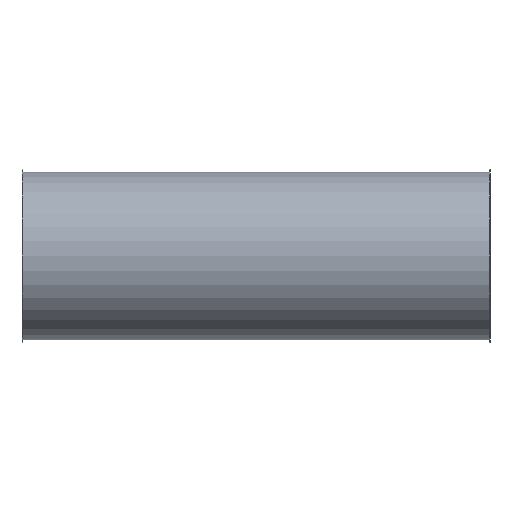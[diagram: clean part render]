
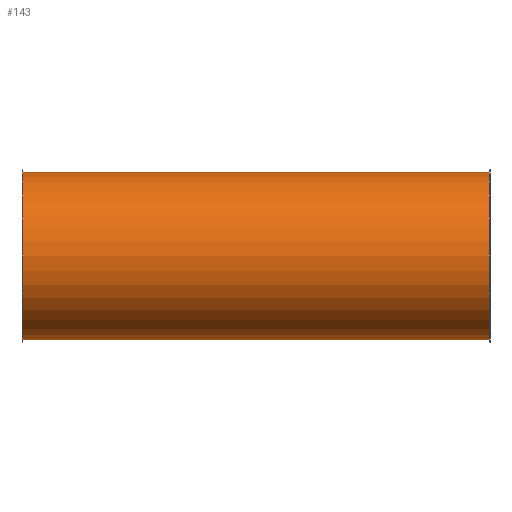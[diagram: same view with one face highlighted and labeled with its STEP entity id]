
A CAD part, front view. The second image highlights one B-rep face of the part: STEP entity #143.
In plain terms, the highlighted cylindrical face has radius 176.5 mm (diameter 353 mm), a full revolution.
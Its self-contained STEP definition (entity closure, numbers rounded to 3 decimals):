
#112=CARTESIAN_POINT('',(952.119,2.817,0.0));
#113=VERTEX_POINT('',#112);
#114=CARTESIAN_POINT('',(952.119,179.317,0.0));
#115=DIRECTION('',(-1.0,0.0,0.0));
#116=DIRECTION('',(0.0,-1.0,0.0));
#117=AXIS2_PLACEMENT_3D('',#114,#115,#116);
#118=CIRCLE('',#117,176.5);
#119=EDGE_CURVE('',#113,#113,#118,.T.);
#124=CARTESIAN_POINT('',(461.119,179.317,0.0));
#125=DIRECTION('',(-1.0,0.,0.0));
#126=DIRECTION('',(0.0,-1.0,0.0));
#127=AXIS2_PLACEMENT_3D('',#124,#125,#126);
#128=CYLINDRICAL_SURFACE('',#127,176.5);
#129=CARTESIAN_POINT('',(-29.881,2.817,0.0));
#130=VERTEX_POINT('',#129);
#131=CARTESIAN_POINT('',(-29.881,179.317,0.0));
#132=DIRECTION('',(-1.0,0.0,0.0));
#133=DIRECTION('',(0.0,-1.0,0.0));
#134=AXIS2_PLACEMENT_3D('',#131,#132,#133);
#135=CIRCLE('',#134,176.5);
#136=EDGE_CURVE('',#130,#130,#135,.T.);
#137=ORIENTED_EDGE('',*,*,#136,.F.);
#138=EDGE_LOOP('',(#137));
#139=FACE_OUTER_BOUND('',#138,.T.);
#140=ORIENTED_EDGE('',*,*,#119,.T.);
#141=EDGE_LOOP('',(#140));
#142=FACE_BOUND('',#141,.T.);
#143=ADVANCED_FACE('',(#139,#142),#128,.T.);
